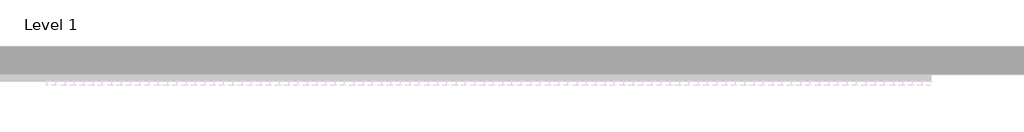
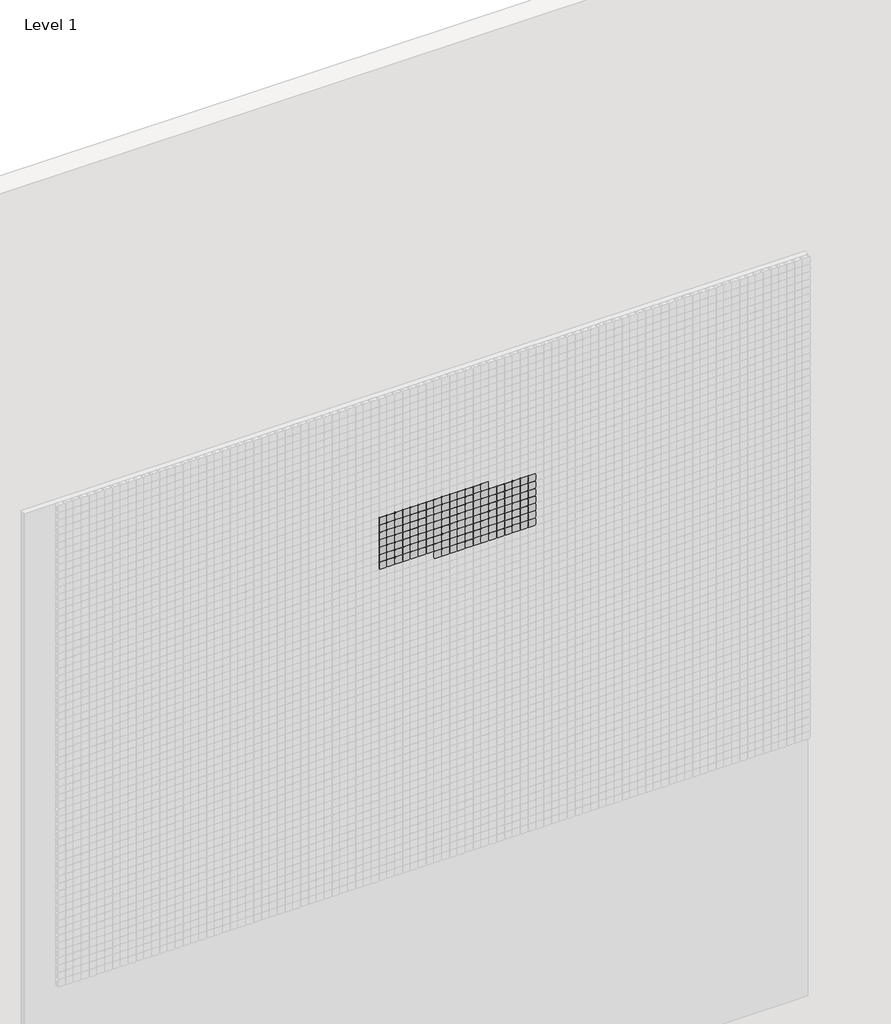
# One storey, part 37 of 71: 147 proxies.
"""IFC4 building model written with IfcOpenShell, lengths in millimetres."""

from ifc_helpers import new_model, si_unit, origin, place, context, project, spatial, transform, mapped, element, save
from components import generic_models_afde289c

model = new_model("IFC4")

# Units and contexts
model_context = context("Model", 3, world=origin())
ifc_project = project(units=[si_unit("LENGTHUNIT", "METRE", prefix="MILLI")], contexts=[model_context])

# Site, building, storey
site = spatial("IfcSite", under=ifc_project)
building = spatial("IfcBuilding", under=site)
storey = spatial("IfcBuildingStorey", under=building, Name="Level 1", Elevation=0.0)

# Proxies
placement = place(None, origin())
generic_models_shape = generic_models_afde289c(model_context)
element("IfcBuildingElementProxy", 1, Name="Pixel_M : Pixel_M", ObjectType="Pixel_M : Pixel_M", at=placement, inside=storey, context=model_context, shape_type="MappedRepresentation", body=[
    mapped(generic_models_shape, transform((7662.4280941, -75.0, 5166.3566215), x_axis=(1.0, 0.0, 0.0), y_axis=(0.0, 0.0, 1.0), z_axis=(0.0, -1.0, 0.0))),
])
element("IfcBuildingElementProxy", 2, Name="Pixel_M : Pixel_M", ObjectType="Pixel_M : Pixel_M", at=placement, inside=storey, context=model_context, shape_type="MappedRepresentation", body=[
    mapped(generic_models_shape, transform((7612.4280941, -75.0, 5166.3566215), x_axis=(1.0, 0.0, 0.0), y_axis=(0.0, 0.0, 1.0), z_axis=(0.0, -1.0, 0.0))),
])
element("IfcBuildingElementProxy", 3, Name="Pixel_M : Pixel_M", ObjectType="Pixel_M : Pixel_M", at=placement, inside=storey, context=model_context, shape_type="MappedRepresentation", body=[
    mapped(generic_models_shape, transform((7562.4280941, -75.0, 5166.3566215), x_axis=(1.0, 0.0, 0.0), y_axis=(0.0, 0.0, 1.0), z_axis=(0.0, -1.0, 0.0))),
])
element("IfcBuildingElementProxy", 4, Name="Pixel_M : Pixel_M", ObjectType="Pixel_M : Pixel_M", at=placement, inside=storey, context=model_context, shape_type="MappedRepresentation", body=[
    mapped(generic_models_shape, transform((7512.4280941, -75.0, 5166.3566215), x_axis=(1.0, 0.0, 0.0), y_axis=(0.0, 0.0, 1.0), z_axis=(0.0, -1.0, 0.0))),
])
element("IfcBuildingElementProxy", 5, Name="Pixel_M : Pixel_M", ObjectType="Pixel_M : Pixel_M", at=placement, inside=storey, context=model_context, shape_type="MappedRepresentation", body=[
    mapped(generic_models_shape, transform((7462.4280941, -75.0, 5166.3566215), x_axis=(1.0, 0.0, 0.0), y_axis=(0.0, 0.0, 1.0), z_axis=(0.0, -1.0, 0.0))),
])
element("IfcBuildingElementProxy", 6, Name="Pixel_M : Pixel_M", ObjectType="Pixel_M : Pixel_M", at=placement, inside=storey, context=model_context, shape_type="MappedRepresentation", body=[
    mapped(generic_models_shape, transform((7412.4280941, -75.0, 5166.3566215), x_axis=(1.0, 0.0, 0.0), y_axis=(0.0, 0.0, 1.0), z_axis=(0.0, -1.0, 0.0))),
])
element("IfcBuildingElementProxy", 7, Name="Pixel_M : Pixel_M", ObjectType="Pixel_M : Pixel_M", at=placement, inside=storey, context=model_context, shape_type="MappedRepresentation", body=[
    mapped(generic_models_shape, transform((7362.4280941, -75.0, 5166.3566215), x_axis=(1.0, 0.0, 0.0), y_axis=(0.0, 0.0, 1.0), z_axis=(0.0, -1.0, 0.0))),
])
element("IfcBuildingElementProxy", 8, Name="Pixel_M : Pixel_M", ObjectType="Pixel_M : Pixel_M", at=placement, inside=storey, context=model_context, shape_type="MappedRepresentation", body=[
    mapped(generic_models_shape, transform((7312.4280941, -75.0, 5166.3566215), x_axis=(1.0, 0.0, 0.0), y_axis=(0.0, 0.0, 1.0), z_axis=(0.0, -1.0, 0.0))),
])
element("IfcBuildingElementProxy", 9, Name="Pixel_M : Pixel_M", ObjectType="Pixel_M : Pixel_M", at=placement, inside=storey, context=model_context, shape_type="MappedRepresentation", body=[
    mapped(generic_models_shape, transform((7262.4280941, -75.0, 5166.3566215), x_axis=(1.0, 0.0, 0.0), y_axis=(0.0, 0.0, 1.0), z_axis=(0.0, -1.0, 0.0))),
])
element("IfcBuildingElementProxy", 10, Name="Pixel_M : Pixel_M", ObjectType="Pixel_M : Pixel_M", at=placement, inside=storey, context=model_context, shape_type="MappedRepresentation", body=[
    mapped(generic_models_shape, transform((7212.4280941, -75.0, 5166.3566215), x_axis=(1.0, 0.0, 0.0), y_axis=(0.0, 0.0, 1.0), z_axis=(0.0, -1.0, 0.0))),
])
element("IfcBuildingElementProxy", 11, Name="Pixel_M : Pixel_M", ObjectType="Pixel_M : Pixel_M", at=placement, inside=storey, context=model_context, shape_type="MappedRepresentation", body=[
    mapped(generic_models_shape, transform((7162.4280941, -75.0, 5166.3566215), x_axis=(1.0, 0.0, 0.0), y_axis=(0.0, 0.0, 1.0), z_axis=(0.0, -1.0, 0.0))),
])
element("IfcBuildingElementProxy", 12, Name="Pixel_M : Pixel_M", ObjectType="Pixel_M : Pixel_M", at=placement, inside=storey, context=model_context, shape_type="MappedRepresentation", body=[
    mapped(generic_models_shape, transform((7112.4280941, -75.0, 5166.3566215), x_axis=(1.0, 0.0, 0.0), y_axis=(0.0, 0.0, 1.0), z_axis=(0.0, -1.0, 0.0))),
])
element("IfcBuildingElementProxy", 13, Name="Pixel_M : Pixel_M", ObjectType="Pixel_M : Pixel_M", at=placement, inside=storey, context=model_context, shape_type="MappedRepresentation", body=[
    mapped(generic_models_shape, transform((7062.4280941, -75.0, 5166.3566215), x_axis=(1.0, 0.0, 0.0), y_axis=(0.0, 0.0, 1.0), z_axis=(0.0, -1.0, 0.0))),
])
element("IfcBuildingElementProxy", 14, Name="Pixel_M : Pixel_M", ObjectType="Pixel_M : Pixel_M", at=placement, inside=storey, context=model_context, shape_type="MappedRepresentation", body=[
    mapped(generic_models_shape, transform((7012.4280941, -75.0, 5166.3566215), x_axis=(1.0, 0.0, 0.0), y_axis=(0.0, 0.0, 1.0), z_axis=(0.0, -1.0, 0.0))),
])
element("IfcBuildingElementProxy", 15, Name="Pixel_M : Pixel_M", ObjectType="Pixel_M : Pixel_M", at=placement, inside=storey, context=model_context, shape_type="MappedRepresentation", body=[
    mapped(generic_models_shape, transform((7962.4280941, -75.0, 5116.3566215), x_axis=(1.0, 0.0, 0.0), y_axis=(0.0, 0.0, 1.0), z_axis=(0.0, -1.0, 0.0))),
])
element("IfcBuildingElementProxy", 16, Name="Pixel_M : Pixel_M", ObjectType="Pixel_M : Pixel_M", at=placement, inside=storey, context=model_context, shape_type="MappedRepresentation", body=[
    mapped(generic_models_shape, transform((7912.4280941, -75.0, 5116.3566215), x_axis=(1.0, 0.0, 0.0), y_axis=(0.0, 0.0, 1.0), z_axis=(0.0, -1.0, 0.0))),
])
element("IfcBuildingElementProxy", 17, Name="Pixel_M : Pixel_M", ObjectType="Pixel_M : Pixel_M", at=placement, inside=storey, context=model_context, shape_type="MappedRepresentation", body=[
    mapped(generic_models_shape, transform((7862.4280941, -75.0, 5116.3566215), x_axis=(1.0, 0.0, 0.0), y_axis=(0.0, 0.0, 1.0), z_axis=(0.0, -1.0, 0.0))),
])
element("IfcBuildingElementProxy", 18, Name="Pixel_M : Pixel_M", ObjectType="Pixel_M : Pixel_M", at=placement, inside=storey, context=model_context, shape_type="MappedRepresentation", body=[
    mapped(generic_models_shape, transform((7812.4280941, -75.0, 5116.3566215), x_axis=(1.0, 0.0, 0.0), y_axis=(0.0, 0.0, 1.0), z_axis=(0.0, -1.0, 0.0))),
])
element("IfcBuildingElementProxy", 19, Name="Pixel_M : Pixel_M", ObjectType="Pixel_M : Pixel_M", at=placement, inside=storey, context=model_context, shape_type="MappedRepresentation", body=[
    mapped(generic_models_shape, transform((7762.4280941, -75.0, 5116.3566215), x_axis=(1.0, 0.0, 0.0), y_axis=(0.0, 0.0, 1.0), z_axis=(0.0, -1.0, 0.0))),
])
element("IfcBuildingElementProxy", 20, Name="Pixel_M : Pixel_M", ObjectType="Pixel_M : Pixel_M", at=placement, inside=storey, context=model_context, shape_type="MappedRepresentation", body=[
    mapped(generic_models_shape, transform((7712.4280941, -75.0, 5116.3566215), x_axis=(1.0, 0.0, 0.0), y_axis=(0.0, 0.0, 1.0), z_axis=(0.0, -1.0, 0.0))),
])
element("IfcBuildingElementProxy", 21, Name="Pixel_M : Pixel_M", ObjectType="Pixel_M : Pixel_M", at=placement, inside=storey, context=model_context, shape_type="MappedRepresentation", body=[
    mapped(generic_models_shape, transform((7662.4280941, -75.0, 5116.3566215), x_axis=(1.0, 0.0, 0.0), y_axis=(0.0, 0.0, 1.0), z_axis=(0.0, -1.0, 0.0))),
])
element("IfcBuildingElementProxy", 22, Name="Pixel_M : Pixel_M", ObjectType="Pixel_M : Pixel_M", at=placement, inside=storey, context=model_context, shape_type="MappedRepresentation", body=[
    mapped(generic_models_shape, transform((7612.4280941, -75.0, 5116.3566215), x_axis=(1.0, 0.0, 0.0), y_axis=(0.0, 0.0, 1.0), z_axis=(0.0, -1.0, 0.0))),
])
element("IfcBuildingElementProxy", 23, Name="Pixel_M : Pixel_M", ObjectType="Pixel_M : Pixel_M", at=placement, inside=storey, context=model_context, shape_type="MappedRepresentation", body=[
    mapped(generic_models_shape, transform((7562.4280941, -75.0, 5116.3566215), x_axis=(1.0, 0.0, 0.0), y_axis=(0.0, 0.0, 1.0), z_axis=(0.0, -1.0, 0.0))),
])
element("IfcBuildingElementProxy", 24, Name="Pixel_M : Pixel_M", ObjectType="Pixel_M : Pixel_M", at=placement, inside=storey, context=model_context, shape_type="MappedRepresentation", body=[
    mapped(generic_models_shape, transform((7512.4280941, -75.0, 5116.3566215), x_axis=(1.0, 0.0, 0.0), y_axis=(0.0, 0.0, 1.0), z_axis=(0.0, -1.0, 0.0))),
])
element("IfcBuildingElementProxy", 25, Name="Pixel_M : Pixel_M", ObjectType="Pixel_M : Pixel_M", at=placement, inside=storey, context=model_context, shape_type="MappedRepresentation", body=[
    mapped(generic_models_shape, transform((7462.4280941, -75.0, 5116.3566215), x_axis=(1.0, 0.0, 0.0), y_axis=(0.0, 0.0, 1.0), z_axis=(0.0, -1.0, 0.0))),
])
element("IfcBuildingElementProxy", 26, Name="Pixel_M : Pixel_M", ObjectType="Pixel_M : Pixel_M", at=placement, inside=storey, context=model_context, shape_type="MappedRepresentation", body=[
    mapped(generic_models_shape, transform((7412.4280941, -75.0, 5116.3566215), x_axis=(1.0, 0.0, 0.0), y_axis=(0.0, 0.0, 1.0), z_axis=(0.0, -1.0, 0.0))),
])
element("IfcBuildingElementProxy", 27, Name="Pixel_M : Pixel_M", ObjectType="Pixel_M : Pixel_M", at=placement, inside=storey, context=model_context, shape_type="MappedRepresentation", body=[
    mapped(generic_models_shape, transform((7362.4280941, -75.0, 5116.3566215), x_axis=(1.0, 0.0, 0.0), y_axis=(0.0, 0.0, 1.0), z_axis=(0.0, -1.0, 0.0))),
])
element("IfcBuildingElementProxy", 28, Name="Pixel_M : Pixel_M", ObjectType="Pixel_M : Pixel_M", at=placement, inside=storey, context=model_context, shape_type="MappedRepresentation", body=[
    mapped(generic_models_shape, transform((7312.4280941, -75.0, 5116.3566215), x_axis=(1.0, 0.0, 0.0), y_axis=(0.0, 0.0, 1.0), z_axis=(0.0, -1.0, 0.0))),
])
element("IfcBuildingElementProxy", 29, Name="Pixel_M : Pixel_M", ObjectType="Pixel_M : Pixel_M", at=placement, inside=storey, context=model_context, shape_type="MappedRepresentation", body=[
    mapped(generic_models_shape, transform((7262.4280941, -75.0, 5116.3566215), x_axis=(1.0, 0.0, 0.0), y_axis=(0.0, 0.0, 1.0), z_axis=(0.0, -1.0, 0.0))),
])
element("IfcBuildingElementProxy", 30, Name="Pixel_M : Pixel_M", ObjectType="Pixel_M : Pixel_M", at=placement, inside=storey, context=model_context, shape_type="MappedRepresentation", body=[
    mapped(generic_models_shape, transform((7212.4280941, -75.0, 5116.3566215), x_axis=(1.0, 0.0, 0.0), y_axis=(0.0, 0.0, 1.0), z_axis=(0.0, -1.0, 0.0))),
])
element("IfcBuildingElementProxy", 31, Name="Pixel_M : Pixel_M", ObjectType="Pixel_M : Pixel_M", at=placement, inside=storey, context=model_context, shape_type="MappedRepresentation", body=[
    mapped(generic_models_shape, transform((7162.4280941, -75.0, 5116.3566215), x_axis=(1.0, 0.0, 0.0), y_axis=(0.0, 0.0, 1.0), z_axis=(0.0, -1.0, 0.0))),
])
element("IfcBuildingElementProxy", 32, Name="Pixel_M : Pixel_M", ObjectType="Pixel_M : Pixel_M", at=placement, inside=storey, context=model_context, shape_type="MappedRepresentation", body=[
    mapped(generic_models_shape, transform((7112.4280941, -75.0, 5116.3566215), x_axis=(1.0, 0.0, 0.0), y_axis=(0.0, 0.0, 1.0), z_axis=(0.0, -1.0, 0.0))),
])
element("IfcBuildingElementProxy", 33, Name="Pixel_M : Pixel_M", ObjectType="Pixel_M : Pixel_M", at=placement, inside=storey, context=model_context, shape_type="MappedRepresentation", body=[
    mapped(generic_models_shape, transform((7062.4280941, -75.0, 5116.3566215), x_axis=(1.0, 0.0, 0.0), y_axis=(0.0, 0.0, 1.0), z_axis=(0.0, -1.0, 0.0))),
])
element("IfcBuildingElementProxy", 34, Name="Pixel_M : Pixel_M", ObjectType="Pixel_M : Pixel_M", at=placement, inside=storey, context=model_context, shape_type="MappedRepresentation", body=[
    mapped(generic_models_shape, transform((7012.4280941, -75.0, 5116.3566215), x_axis=(1.0, 0.0, 0.0), y_axis=(0.0, 0.0, 1.0), z_axis=(0.0, -1.0, 0.0))),
])
element("IfcBuildingElementProxy", 35, Name="Pixel_M : Pixel_M", ObjectType="Pixel_M : Pixel_M", at=placement, inside=storey, context=model_context, shape_type="MappedRepresentation", body=[
    mapped(generic_models_shape, transform((7962.4280941, -75.0, 5066.3566215), x_axis=(1.0, 0.0, 0.0), y_axis=(0.0, 0.0, 1.0), z_axis=(0.0, -1.0, 0.0))),
])
element("IfcBuildingElementProxy", 36, Name="Pixel_M : Pixel_M", ObjectType="Pixel_M : Pixel_M", at=placement, inside=storey, context=model_context, shape_type="MappedRepresentation", body=[
    mapped(generic_models_shape, transform((7912.4280941, -75.0, 5066.3566215), x_axis=(1.0, 0.0, 0.0), y_axis=(0.0, 0.0, 1.0), z_axis=(0.0, -1.0, 0.0))),
])
element("IfcBuildingElementProxy", 37, Name="Pixel_M : Pixel_M", ObjectType="Pixel_M : Pixel_M", at=placement, inside=storey, context=model_context, shape_type="MappedRepresentation", body=[
    mapped(generic_models_shape, transform((7862.4280941, -75.0, 5066.3566215), x_axis=(1.0, 0.0, 0.0), y_axis=(0.0, 0.0, 1.0), z_axis=(0.0, -1.0, 0.0))),
])
element("IfcBuildingElementProxy", 38, Name="Pixel_M : Pixel_M", ObjectType="Pixel_M : Pixel_M", at=placement, inside=storey, context=model_context, shape_type="MappedRepresentation", body=[
    mapped(generic_models_shape, transform((7812.4280941, -75.0, 5066.3566215), x_axis=(1.0, 0.0, 0.0), y_axis=(0.0, 0.0, 1.0), z_axis=(0.0, -1.0, 0.0))),
])
element("IfcBuildingElementProxy", 39, Name="Pixel_M : Pixel_M", ObjectType="Pixel_M : Pixel_M", at=placement, inside=storey, context=model_context, shape_type="MappedRepresentation", body=[
    mapped(generic_models_shape, transform((7762.4280941, -75.0, 5066.3566215), x_axis=(1.0, 0.0, 0.0), y_axis=(0.0, 0.0, 1.0), z_axis=(0.0, -1.0, 0.0))),
])
element("IfcBuildingElementProxy", 40, Name="Pixel_M : Pixel_M", ObjectType="Pixel_M : Pixel_M", at=placement, inside=storey, context=model_context, shape_type="MappedRepresentation", body=[
    mapped(generic_models_shape, transform((7712.4280941, -75.0, 5066.3566215), x_axis=(1.0, 0.0, 0.0), y_axis=(0.0, 0.0, 1.0), z_axis=(0.0, -1.0, 0.0))),
])
element("IfcBuildingElementProxy", 41, Name="Pixel_M : Pixel_M", ObjectType="Pixel_M : Pixel_M", at=placement, inside=storey, context=model_context, shape_type="MappedRepresentation", body=[
    mapped(generic_models_shape, transform((7662.4280941, -75.0, 5066.3566215), x_axis=(1.0, 0.0, 0.0), y_axis=(0.0, 0.0, 1.0), z_axis=(0.0, -1.0, 0.0))),
])
element("IfcBuildingElementProxy", 42, Name="Pixel_M : Pixel_M", ObjectType="Pixel_M : Pixel_M", at=placement, inside=storey, context=model_context, shape_type="MappedRepresentation", body=[
    mapped(generic_models_shape, transform((7612.4280941, -75.0, 5066.3566215), x_axis=(1.0, 0.0, 0.0), y_axis=(0.0, 0.0, 1.0), z_axis=(0.0, -1.0, 0.0))),
])
element("IfcBuildingElementProxy", 43, Name="Pixel_M : Pixel_M", ObjectType="Pixel_M : Pixel_M", at=placement, inside=storey, context=model_context, shape_type="MappedRepresentation", body=[
    mapped(generic_models_shape, transform((7562.4280941, -75.0, 5066.3566215), x_axis=(1.0, 0.0, 0.0), y_axis=(0.0, 0.0, 1.0), z_axis=(0.0, -1.0, 0.0))),
])
element("IfcBuildingElementProxy", 44, Name="Pixel_M : Pixel_M", ObjectType="Pixel_M : Pixel_M", at=placement, inside=storey, context=model_context, shape_type="MappedRepresentation", body=[
    mapped(generic_models_shape, transform((7512.4280941, -75.0, 5066.3566215), x_axis=(1.0, 0.0, 0.0), y_axis=(0.0, 0.0, 1.0), z_axis=(0.0, -1.0, 0.0))),
])
element("IfcBuildingElementProxy", 45, Name="Pixel_M : Pixel_M", ObjectType="Pixel_M : Pixel_M", at=placement, inside=storey, context=model_context, shape_type="MappedRepresentation", body=[
    mapped(generic_models_shape, transform((7462.4280941, -75.0, 5066.3566215), x_axis=(1.0, 0.0, 0.0), y_axis=(0.0, 0.0, 1.0), z_axis=(0.0, -1.0, 0.0))),
])
element("IfcBuildingElementProxy", 46, Name="Pixel_M : Pixel_M", ObjectType="Pixel_M : Pixel_M", at=placement, inside=storey, context=model_context, shape_type="MappedRepresentation", body=[
    mapped(generic_models_shape, transform((7412.4280941, -75.0, 5066.3566215), x_axis=(1.0, 0.0, 0.0), y_axis=(0.0, 0.0, 1.0), z_axis=(0.0, -1.0, 0.0))),
])
element("IfcBuildingElementProxy", 47, Name="Pixel_M : Pixel_M", ObjectType="Pixel_M : Pixel_M", at=placement, inside=storey, context=model_context, shape_type="MappedRepresentation", body=[
    mapped(generic_models_shape, transform((7362.4280941, -75.0, 5066.3566215), x_axis=(1.0, 0.0, 0.0), y_axis=(0.0, 0.0, 1.0), z_axis=(0.0, -1.0, 0.0))),
])
element("IfcBuildingElementProxy", 48, Name="Pixel_M : Pixel_M", ObjectType="Pixel_M : Pixel_M", at=placement, inside=storey, context=model_context, shape_type="MappedRepresentation", body=[
    mapped(generic_models_shape, transform((7312.4280941, -75.0, 5066.3566215), x_axis=(1.0, 0.0, 0.0), y_axis=(0.0, 0.0, 1.0), z_axis=(0.0, -1.0, 0.0))),
])
element("IfcBuildingElementProxy", 49, Name="Pixel_M : Pixel_M", ObjectType="Pixel_M : Pixel_M", at=placement, inside=storey, context=model_context, shape_type="MappedRepresentation", body=[
    mapped(generic_models_shape, transform((7262.4280941, -75.0, 5066.3566215), x_axis=(1.0, 0.0, 0.0), y_axis=(0.0, 0.0, 1.0), z_axis=(0.0, -1.0, 0.0))),
])
element("IfcBuildingElementProxy", 50, Name="Pixel_M : Pixel_M", ObjectType="Pixel_M : Pixel_M", at=placement, inside=storey, context=model_context, shape_type="MappedRepresentation", body=[
    mapped(generic_models_shape, transform((7212.4280941, -75.0, 5066.3566215), x_axis=(1.0, 0.0, 0.0), y_axis=(0.0, 0.0, 1.0), z_axis=(0.0, -1.0, 0.0))),
])
element("IfcBuildingElementProxy", 51, Name="Pixel_M : Pixel_M", ObjectType="Pixel_M : Pixel_M", at=placement, inside=storey, context=model_context, shape_type="MappedRepresentation", body=[
    mapped(generic_models_shape, transform((7162.4280941, -75.0, 5066.3566215), x_axis=(1.0, 0.0, 0.0), y_axis=(0.0, 0.0, 1.0), z_axis=(0.0, -1.0, 0.0))),
])
element("IfcBuildingElementProxy", 52, Name="Pixel_M : Pixel_M", ObjectType="Pixel_M : Pixel_M", at=placement, inside=storey, context=model_context, shape_type="MappedRepresentation", body=[
    mapped(generic_models_shape, transform((7112.4280941, -75.0, 5066.3566215), x_axis=(1.0, 0.0, 0.0), y_axis=(0.0, 0.0, 1.0), z_axis=(0.0, -1.0, 0.0))),
])
element("IfcBuildingElementProxy", 53, Name="Pixel_M : Pixel_M", ObjectType="Pixel_M : Pixel_M", at=placement, inside=storey, context=model_context, shape_type="MappedRepresentation", body=[
    mapped(generic_models_shape, transform((7062.4280941, -75.0, 5066.3566215), x_axis=(1.0, 0.0, 0.0), y_axis=(0.0, 0.0, 1.0), z_axis=(0.0, -1.0, 0.0))),
])
element("IfcBuildingElementProxy", 54, Name="Pixel_M : Pixel_M", ObjectType="Pixel_M : Pixel_M", at=placement, inside=storey, context=model_context, shape_type="MappedRepresentation", body=[
    mapped(generic_models_shape, transform((7012.4280941, -75.0, 5066.3566215), x_axis=(1.0, 0.0, 0.0), y_axis=(0.0, 0.0, 1.0), z_axis=(0.0, -1.0, 0.0))),
])
element("IfcBuildingElementProxy", 55, Name="Pixel_M : Pixel_M", ObjectType="Pixel_M : Pixel_M", at=placement, inside=storey, context=model_context, shape_type="MappedRepresentation", body=[
    mapped(generic_models_shape, transform((7962.4280941, -75.0, 5016.3566215), x_axis=(1.0, 0.0, 0.0), y_axis=(0.0, 0.0, 1.0), z_axis=(0.0, -1.0, 0.0))),
])
element("IfcBuildingElementProxy", 56, Name="Pixel_M : Pixel_M", ObjectType="Pixel_M : Pixel_M", at=placement, inside=storey, context=model_context, shape_type="MappedRepresentation", body=[
    mapped(generic_models_shape, transform((7912.4280941, -75.0, 5016.3566215), x_axis=(1.0, 0.0, 0.0), y_axis=(0.0, 0.0, 1.0), z_axis=(0.0, -1.0, 0.0))),
])
element("IfcBuildingElementProxy", 57, Name="Pixel_M : Pixel_M", ObjectType="Pixel_M : Pixel_M", at=placement, inside=storey, context=model_context, shape_type="MappedRepresentation", body=[
    mapped(generic_models_shape, transform((7862.4280941, -75.0, 5016.3566215), x_axis=(1.0, 0.0, 0.0), y_axis=(0.0, 0.0, 1.0), z_axis=(0.0, -1.0, 0.0))),
])
element("IfcBuildingElementProxy", 58, Name="Pixel_M : Pixel_M", ObjectType="Pixel_M : Pixel_M", at=placement, inside=storey, context=model_context, shape_type="MappedRepresentation", body=[
    mapped(generic_models_shape, transform((7812.4280941, -75.0, 5016.3566215), x_axis=(1.0, 0.0, 0.0), y_axis=(0.0, 0.0, 1.0), z_axis=(0.0, -1.0, 0.0))),
])
element("IfcBuildingElementProxy", 59, Name="Pixel_M : Pixel_M", ObjectType="Pixel_M : Pixel_M", at=placement, inside=storey, context=model_context, shape_type="MappedRepresentation", body=[
    mapped(generic_models_shape, transform((7762.4280941, -75.0, 5016.3566215), x_axis=(1.0, 0.0, 0.0), y_axis=(0.0, 0.0, 1.0), z_axis=(0.0, -1.0, 0.0))),
])
element("IfcBuildingElementProxy", 60, Name="Pixel_M : Pixel_M", ObjectType="Pixel_M : Pixel_M", at=placement, inside=storey, context=model_context, shape_type="MappedRepresentation", body=[
    mapped(generic_models_shape, transform((7712.4280941, -75.0, 5016.3566215), x_axis=(1.0, 0.0, 0.0), y_axis=(0.0, 0.0, 1.0), z_axis=(0.0, -1.0, 0.0))),
])
element("IfcBuildingElementProxy", 61, Name="Pixel_M : Pixel_M", ObjectType="Pixel_M : Pixel_M", at=placement, inside=storey, context=model_context, shape_type="MappedRepresentation", body=[
    mapped(generic_models_shape, transform((7662.4280941, -75.0, 5016.3566215), x_axis=(1.0, 0.0, 0.0), y_axis=(0.0, 0.0, 1.0), z_axis=(0.0, -1.0, 0.0))),
])
element("IfcBuildingElementProxy", 62, Name="Pixel_M : Pixel_M", ObjectType="Pixel_M : Pixel_M", at=placement, inside=storey, context=model_context, shape_type="MappedRepresentation", body=[
    mapped(generic_models_shape, transform((7612.4280941, -75.0, 5016.3566215), x_axis=(1.0, 0.0, 0.0), y_axis=(0.0, 0.0, 1.0), z_axis=(0.0, -1.0, 0.0))),
])
element("IfcBuildingElementProxy", 63, Name="Pixel_M : Pixel_M", ObjectType="Pixel_M : Pixel_M", at=placement, inside=storey, context=model_context, shape_type="MappedRepresentation", body=[
    mapped(generic_models_shape, transform((7562.4280941, -75.0, 5016.3566215), x_axis=(1.0, 0.0, 0.0), y_axis=(0.0, 0.0, 1.0), z_axis=(0.0, -1.0, 0.0))),
])
element("IfcBuildingElementProxy", 64, Name="Pixel_M : Pixel_M", ObjectType="Pixel_M : Pixel_M", at=placement, inside=storey, context=model_context, shape_type="MappedRepresentation", body=[
    mapped(generic_models_shape, transform((7512.4280941, -75.0, 5016.3566215), x_axis=(1.0, 0.0, 0.0), y_axis=(0.0, 0.0, 1.0), z_axis=(0.0, -1.0, 0.0))),
])
element("IfcBuildingElementProxy", 65, Name="Pixel_M : Pixel_M", ObjectType="Pixel_M : Pixel_M", at=placement, inside=storey, context=model_context, shape_type="MappedRepresentation", body=[
    mapped(generic_models_shape, transform((7462.4280941, -75.0, 5016.3566215), x_axis=(1.0, 0.0, 0.0), y_axis=(0.0, 0.0, 1.0), z_axis=(0.0, -1.0, 0.0))),
])
element("IfcBuildingElementProxy", 66, Name="Pixel_M : Pixel_M", ObjectType="Pixel_M : Pixel_M", at=placement, inside=storey, context=model_context, shape_type="MappedRepresentation", body=[
    mapped(generic_models_shape, transform((7412.4280941, -75.0, 5016.3566215), x_axis=(1.0, 0.0, 0.0), y_axis=(0.0, 0.0, 1.0), z_axis=(0.0, -1.0, 0.0))),
])
element("IfcBuildingElementProxy", 67, Name="Pixel_M : Pixel_M", ObjectType="Pixel_M : Pixel_M", at=placement, inside=storey, context=model_context, shape_type="MappedRepresentation", body=[
    mapped(generic_models_shape, transform((7362.4280941, -75.0, 5016.3566215), x_axis=(1.0, 0.0, 0.0), y_axis=(0.0, 0.0, 1.0), z_axis=(0.0, -1.0, 0.0))),
])
element("IfcBuildingElementProxy", 68, Name="Pixel_M : Pixel_M", ObjectType="Pixel_M : Pixel_M", at=placement, inside=storey, context=model_context, shape_type="MappedRepresentation", body=[
    mapped(generic_models_shape, transform((7312.4280941, -75.0, 5016.3566215), x_axis=(1.0, 0.0, 0.0), y_axis=(0.0, 0.0, 1.0), z_axis=(0.0, -1.0, 0.0))),
])
element("IfcBuildingElementProxy", 69, Name="Pixel_M : Pixel_M", ObjectType="Pixel_M : Pixel_M", at=placement, inside=storey, context=model_context, shape_type="MappedRepresentation", body=[
    mapped(generic_models_shape, transform((7262.4280941, -75.0, 5016.3566215), x_axis=(1.0, 0.0, 0.0), y_axis=(0.0, 0.0, 1.0), z_axis=(0.0, -1.0, 0.0))),
])
element("IfcBuildingElementProxy", 70, Name="Pixel_M : Pixel_M", ObjectType="Pixel_M : Pixel_M", at=placement, inside=storey, context=model_context, shape_type="MappedRepresentation", body=[
    mapped(generic_models_shape, transform((7212.4280941, -75.0, 5016.3566215), x_axis=(1.0, 0.0, 0.0), y_axis=(0.0, 0.0, 1.0), z_axis=(0.0, -1.0, 0.0))),
])
element("IfcBuildingElementProxy", 71, Name="Pixel_M : Pixel_M", ObjectType="Pixel_M : Pixel_M", at=placement, inside=storey, context=model_context, shape_type="MappedRepresentation", body=[
    mapped(generic_models_shape, transform((7162.4280941, -75.0, 5016.3566215), x_axis=(1.0, 0.0, 0.0), y_axis=(0.0, 0.0, 1.0), z_axis=(0.0, -1.0, 0.0))),
])
element("IfcBuildingElementProxy", 72, Name="Pixel_M : Pixel_M", ObjectType="Pixel_M : Pixel_M", at=placement, inside=storey, context=model_context, shape_type="MappedRepresentation", body=[
    mapped(generic_models_shape, transform((7112.4280941, -75.0, 5016.3566215), x_axis=(1.0, 0.0, 0.0), y_axis=(0.0, 0.0, 1.0), z_axis=(0.0, -1.0, 0.0))),
])
element("IfcBuildingElementProxy", 73, Name="Pixel_M : Pixel_M", ObjectType="Pixel_M : Pixel_M", at=placement, inside=storey, context=model_context, shape_type="MappedRepresentation", body=[
    mapped(generic_models_shape, transform((7062.4280941, -75.0, 5016.3566215), x_axis=(1.0, 0.0, 0.0), y_axis=(0.0, 0.0, 1.0), z_axis=(0.0, -1.0, 0.0))),
])
element("IfcBuildingElementProxy", 74, Name="Pixel_M : Pixel_M", ObjectType="Pixel_M : Pixel_M", at=placement, inside=storey, context=model_context, shape_type="MappedRepresentation", body=[
    mapped(generic_models_shape, transform((7012.4280941, -75.0, 5016.3566215), x_axis=(1.0, 0.0, 0.0), y_axis=(0.0, 0.0, 1.0), z_axis=(0.0, -1.0, 0.0))),
])
element("IfcBuildingElementProxy", 75, Name="Pixel_M : Pixel_M", ObjectType="Pixel_M : Pixel_M", at=placement, inside=storey, context=model_context, shape_type="MappedRepresentation", body=[
    mapped(generic_models_shape, transform((7962.4280941, -75.0, 4966.3566215), x_axis=(1.0, 0.0, 0.0), y_axis=(0.0, 0.0, 1.0), z_axis=(0.0, -1.0, 0.0))),
])
element("IfcBuildingElementProxy", 76, Name="Pixel_M : Pixel_M", ObjectType="Pixel_M : Pixel_M", at=placement, inside=storey, context=model_context, shape_type="MappedRepresentation", body=[
    mapped(generic_models_shape, transform((7912.4280941, -75.0, 4966.3566215), x_axis=(1.0, 0.0, 0.0), y_axis=(0.0, 0.0, 1.0), z_axis=(0.0, -1.0, 0.0))),
])
element("IfcBuildingElementProxy", 77, Name="Pixel_M : Pixel_M", ObjectType="Pixel_M : Pixel_M", at=placement, inside=storey, context=model_context, shape_type="MappedRepresentation", body=[
    mapped(generic_models_shape, transform((7862.4280941, -75.0, 4966.3566215), x_axis=(1.0, 0.0, 0.0), y_axis=(0.0, 0.0, 1.0), z_axis=(0.0, -1.0, 0.0))),
])
element("IfcBuildingElementProxy", 78, Name="Pixel_M : Pixel_M", ObjectType="Pixel_M : Pixel_M", at=placement, inside=storey, context=model_context, shape_type="MappedRepresentation", body=[
    mapped(generic_models_shape, transform((7812.4280941, -75.0, 4966.3566215), x_axis=(1.0, 0.0, 0.0), y_axis=(0.0, 0.0, 1.0), z_axis=(0.0, -1.0, 0.0))),
])
element("IfcBuildingElementProxy", 79, Name="Pixel_M : Pixel_M", ObjectType="Pixel_M : Pixel_M", at=placement, inside=storey, context=model_context, shape_type="MappedRepresentation", body=[
    mapped(generic_models_shape, transform((7762.4280941, -75.0, 4966.3566215), x_axis=(1.0, 0.0, 0.0), y_axis=(0.0, 0.0, 1.0), z_axis=(0.0, -1.0, 0.0))),
])
element("IfcBuildingElementProxy", 80, Name="Pixel_M : Pixel_M", ObjectType="Pixel_M : Pixel_M", at=placement, inside=storey, context=model_context, shape_type="MappedRepresentation", body=[
    mapped(generic_models_shape, transform((7712.4280941, -75.0, 4966.3566215), x_axis=(1.0, 0.0, 0.0), y_axis=(0.0, 0.0, 1.0), z_axis=(0.0, -1.0, 0.0))),
])
element("IfcBuildingElementProxy", 81, Name="Pixel_M : Pixel_M", ObjectType="Pixel_M : Pixel_M", at=placement, inside=storey, context=model_context, shape_type="MappedRepresentation", body=[
    mapped(generic_models_shape, transform((7662.4280941, -75.0, 4966.3566215), x_axis=(1.0, 0.0, 0.0), y_axis=(0.0, 0.0, 1.0), z_axis=(0.0, -1.0, 0.0))),
])
element("IfcBuildingElementProxy", 82, Name="Pixel_M : Pixel_M", ObjectType="Pixel_M : Pixel_M", at=placement, inside=storey, context=model_context, shape_type="MappedRepresentation", body=[
    mapped(generic_models_shape, transform((7612.4280941, -75.0, 4966.3566215), x_axis=(1.0, 0.0, 0.0), y_axis=(0.0, 0.0, 1.0), z_axis=(0.0, -1.0, 0.0))),
])
element("IfcBuildingElementProxy", 83, Name="Pixel_M : Pixel_M", ObjectType="Pixel_M : Pixel_M", at=placement, inside=storey, context=model_context, shape_type="MappedRepresentation", body=[
    mapped(generic_models_shape, transform((7562.4280941, -75.0, 4966.3566215), x_axis=(1.0, 0.0, 0.0), y_axis=(0.0, 0.0, 1.0), z_axis=(0.0, -1.0, 0.0))),
])
element("IfcBuildingElementProxy", 84, Name="Pixel_M : Pixel_M", ObjectType="Pixel_M : Pixel_M", at=placement, inside=storey, context=model_context, shape_type="MappedRepresentation", body=[
    mapped(generic_models_shape, transform((7512.4280941, -75.0, 4966.3566215), x_axis=(1.0, 0.0, 0.0), y_axis=(0.0, 0.0, 1.0), z_axis=(0.0, -1.0, 0.0))),
])
element("IfcBuildingElementProxy", 85, Name="Pixel_M : Pixel_M", ObjectType="Pixel_M : Pixel_M", at=placement, inside=storey, context=model_context, shape_type="MappedRepresentation", body=[
    mapped(generic_models_shape, transform((7462.4280941, -75.0, 4966.3566215), x_axis=(1.0, 0.0, 0.0), y_axis=(0.0, 0.0, 1.0), z_axis=(0.0, -1.0, 0.0))),
])
element("IfcBuildingElementProxy", 86, Name="Pixel_M : Pixel_M", ObjectType="Pixel_M : Pixel_M", at=placement, inside=storey, context=model_context, shape_type="MappedRepresentation", body=[
    mapped(generic_models_shape, transform((7412.4280941, -75.0, 4966.3566215), x_axis=(1.0, 0.0, 0.0), y_axis=(0.0, 0.0, 1.0), z_axis=(0.0, -1.0, 0.0))),
])
element("IfcBuildingElementProxy", 87, Name="Pixel_M : Pixel_M", ObjectType="Pixel_M : Pixel_M", at=placement, inside=storey, context=model_context, shape_type="MappedRepresentation", body=[
    mapped(generic_models_shape, transform((7362.4280941, -75.0, 4966.3566215), x_axis=(1.0, 0.0, 0.0), y_axis=(0.0, 0.0, 1.0), z_axis=(0.0, -1.0, 0.0))),
])
element("IfcBuildingElementProxy", 88, Name="Pixel_M : Pixel_M", ObjectType="Pixel_M : Pixel_M", at=placement, inside=storey, context=model_context, shape_type="MappedRepresentation", body=[
    mapped(generic_models_shape, transform((7312.4280941, -75.0, 4966.3566215), x_axis=(1.0, 0.0, 0.0), y_axis=(0.0, 0.0, 1.0), z_axis=(0.0, -1.0, 0.0))),
])
element("IfcBuildingElementProxy", 89, Name="Pixel_M : Pixel_M", ObjectType="Pixel_M : Pixel_M", at=placement, inside=storey, context=model_context, shape_type="MappedRepresentation", body=[
    mapped(generic_models_shape, transform((7262.4280941, -75.0, 4966.3566215), x_axis=(1.0, 0.0, 0.0), y_axis=(0.0, 0.0, 1.0), z_axis=(0.0, -1.0, 0.0))),
])
element("IfcBuildingElementProxy", 90, Name="Pixel_M : Pixel_M", ObjectType="Pixel_M : Pixel_M", at=placement, inside=storey, context=model_context, shape_type="MappedRepresentation", body=[
    mapped(generic_models_shape, transform((7212.4280941, -75.0, 4966.3566215), x_axis=(1.0, 0.0, 0.0), y_axis=(0.0, 0.0, 1.0), z_axis=(0.0, -1.0, 0.0))),
])
element("IfcBuildingElementProxy", 91, Name="Pixel_M : Pixel_M", ObjectType="Pixel_M : Pixel_M", at=placement, inside=storey, context=model_context, shape_type="MappedRepresentation", body=[
    mapped(generic_models_shape, transform((7162.4280941, -75.0, 4966.3566215), x_axis=(1.0, 0.0, 0.0), y_axis=(0.0, 0.0, 1.0), z_axis=(0.0, -1.0, 0.0))),
])
element("IfcBuildingElementProxy", 92, Name="Pixel_M : Pixel_M", ObjectType="Pixel_M : Pixel_M", at=placement, inside=storey, context=model_context, shape_type="MappedRepresentation", body=[
    mapped(generic_models_shape, transform((7112.4280941, -75.0, 4966.3566215), x_axis=(1.0, 0.0, 0.0), y_axis=(0.0, 0.0, 1.0), z_axis=(0.0, -1.0, 0.0))),
])
element("IfcBuildingElementProxy", 93, Name="Pixel_M : Pixel_M", ObjectType="Pixel_M : Pixel_M", at=placement, inside=storey, context=model_context, shape_type="MappedRepresentation", body=[
    mapped(generic_models_shape, transform((7062.4280941, -75.0, 4966.3566215), x_axis=(1.0, 0.0, 0.0), y_axis=(0.0, 0.0, 1.0), z_axis=(0.0, -1.0, 0.0))),
])
element("IfcBuildingElementProxy", 94, Name="Pixel_M : Pixel_M", ObjectType="Pixel_M : Pixel_M", at=placement, inside=storey, context=model_context, shape_type="MappedRepresentation", body=[
    mapped(generic_models_shape, transform((7012.4280941, -75.0, 4966.3566215), x_axis=(1.0, 0.0, 0.0), y_axis=(0.0, 0.0, 1.0), z_axis=(0.0, -1.0, 0.0))),
])
element("IfcBuildingElementProxy", 95, Name="Pixel_M : Pixel_M", ObjectType="Pixel_M : Pixel_M", at=placement, inside=storey, context=model_context, shape_type="MappedRepresentation", body=[
    mapped(generic_models_shape, transform((7962.4280941, -75.0, 4916.3566215), x_axis=(1.0, 0.0, 0.0), y_axis=(0.0, 0.0, 1.0), z_axis=(0.0, -1.0, 0.0))),
])
element("IfcBuildingElementProxy", 96, Name="Pixel_M : Pixel_M", ObjectType="Pixel_M : Pixel_M", at=placement, inside=storey, context=model_context, shape_type="MappedRepresentation", body=[
    mapped(generic_models_shape, transform((7912.4280941, -75.0, 4916.3566215), x_axis=(1.0, 0.0, 0.0), y_axis=(0.0, 0.0, 1.0), z_axis=(0.0, -1.0, 0.0))),
])
element("IfcBuildingElementProxy", 97, Name="Pixel_M : Pixel_M", ObjectType="Pixel_M : Pixel_M", at=placement, inside=storey, context=model_context, shape_type="MappedRepresentation", body=[
    mapped(generic_models_shape, transform((7862.4280941, -75.0, 4916.3566215), x_axis=(1.0, 0.0, 0.0), y_axis=(0.0, 0.0, 1.0), z_axis=(0.0, -1.0, 0.0))),
])
element("IfcBuildingElementProxy", 98, Name="Pixel_M : Pixel_M", ObjectType="Pixel_M : Pixel_M", at=placement, inside=storey, context=model_context, shape_type="MappedRepresentation", body=[
    mapped(generic_models_shape, transform((7812.4280941, -75.0, 4916.3566215), x_axis=(1.0, 0.0, 0.0), y_axis=(0.0, 0.0, 1.0), z_axis=(0.0, -1.0, 0.0))),
])
element("IfcBuildingElementProxy", 99, Name="Pixel_M : Pixel_M", ObjectType="Pixel_M : Pixel_M", at=placement, inside=storey, context=model_context, shape_type="MappedRepresentation", body=[
    mapped(generic_models_shape, transform((7762.4280941, -75.0, 4916.3566215), x_axis=(1.0, 0.0, 0.0), y_axis=(0.0, 0.0, 1.0), z_axis=(0.0, -1.0, 0.0))),
])
element("IfcBuildingElementProxy", 100, Name="Pixel_M : Pixel_M", ObjectType="Pixel_M : Pixel_M", at=placement, inside=storey, context=model_context, shape_type="MappedRepresentation", body=[
    mapped(generic_models_shape, transform((7712.4280941, -75.0, 4916.3566215), x_axis=(1.0, 0.0, 0.0), y_axis=(0.0, 0.0, 1.0), z_axis=(0.0, -1.0, 0.0))),
])
element("IfcBuildingElementProxy", 101, Name="Pixel_M : Pixel_M", ObjectType="Pixel_M : Pixel_M", at=placement, inside=storey, context=model_context, shape_type="MappedRepresentation", body=[
    mapped(generic_models_shape, transform((7662.4280941, -75.0, 4916.3566215), x_axis=(1.0, 0.0, 0.0), y_axis=(0.0, 0.0, 1.0), z_axis=(0.0, -1.0, 0.0))),
])
element("IfcBuildingElementProxy", 102, Name="Pixel_M : Pixel_M", ObjectType="Pixel_M : Pixel_M", at=placement, inside=storey, context=model_context, shape_type="MappedRepresentation", body=[
    mapped(generic_models_shape, transform((7612.4280941, -75.0, 4916.3566215), x_axis=(1.0, 0.0, 0.0), y_axis=(0.0, 0.0, 1.0), z_axis=(0.0, -1.0, 0.0))),
])
element("IfcBuildingElementProxy", 103, Name="Pixel_M : Pixel_M", ObjectType="Pixel_M : Pixel_M", at=placement, inside=storey, context=model_context, shape_type="MappedRepresentation", body=[
    mapped(generic_models_shape, transform((7562.4280941, -75.0, 4916.3566215), x_axis=(1.0, 0.0, 0.0), y_axis=(0.0, 0.0, 1.0), z_axis=(0.0, -1.0, 0.0))),
])
element("IfcBuildingElementProxy", 104, Name="Pixel_M : Pixel_M", ObjectType="Pixel_M : Pixel_M", at=placement, inside=storey, context=model_context, shape_type="MappedRepresentation", body=[
    mapped(generic_models_shape, transform((7512.4280941, -75.0, 4916.3566215), x_axis=(1.0, 0.0, 0.0), y_axis=(0.0, 0.0, 1.0), z_axis=(0.0, -1.0, 0.0))),
])
element("IfcBuildingElementProxy", 105, Name="Pixel_M : Pixel_M", ObjectType="Pixel_M : Pixel_M", at=placement, inside=storey, context=model_context, shape_type="MappedRepresentation", body=[
    mapped(generic_models_shape, transform((7462.4280941, -75.0, 4916.3566215), x_axis=(1.0, 0.0, 0.0), y_axis=(0.0, 0.0, 1.0), z_axis=(0.0, -1.0, 0.0))),
])
element("IfcBuildingElementProxy", 106, Name="Pixel_M : Pixel_M", ObjectType="Pixel_M : Pixel_M", at=placement, inside=storey, context=model_context, shape_type="MappedRepresentation", body=[
    mapped(generic_models_shape, transform((7412.4280941, -75.0, 4916.3566215), x_axis=(1.0, 0.0, 0.0), y_axis=(0.0, 0.0, 1.0), z_axis=(0.0, -1.0, 0.0))),
])
element("IfcBuildingElementProxy", 107, Name="Pixel_M : Pixel_M", ObjectType="Pixel_M : Pixel_M", at=placement, inside=storey, context=model_context, shape_type="MappedRepresentation", body=[
    mapped(generic_models_shape, transform((7362.4280941, -75.0, 4916.3566215), x_axis=(1.0, 0.0, 0.0), y_axis=(0.0, 0.0, 1.0), z_axis=(0.0, -1.0, 0.0))),
])
element("IfcBuildingElementProxy", 108, Name="Pixel_M : Pixel_M", ObjectType="Pixel_M : Pixel_M", at=placement, inside=storey, context=model_context, shape_type="MappedRepresentation", body=[
    mapped(generic_models_shape, transform((7312.4280941, -75.0, 4916.3566215), x_axis=(1.0, 0.0, 0.0), y_axis=(0.0, 0.0, 1.0), z_axis=(0.0, -1.0, 0.0))),
])
element("IfcBuildingElementProxy", 109, Name="Pixel_M : Pixel_M", ObjectType="Pixel_M : Pixel_M", at=placement, inside=storey, context=model_context, shape_type="MappedRepresentation", body=[
    mapped(generic_models_shape, transform((7262.4280941, -75.0, 4916.3566215), x_axis=(1.0, 0.0, 0.0), y_axis=(0.0, 0.0, 1.0), z_axis=(0.0, -1.0, 0.0))),
])
element("IfcBuildingElementProxy", 110, Name="Pixel_M : Pixel_M", ObjectType="Pixel_M : Pixel_M", at=placement, inside=storey, context=model_context, shape_type="MappedRepresentation", body=[
    mapped(generic_models_shape, transform((7212.4280941, -75.0, 4916.3566215), x_axis=(1.0, 0.0, 0.0), y_axis=(0.0, 0.0, 1.0), z_axis=(0.0, -1.0, 0.0))),
])
element("IfcBuildingElementProxy", 111, Name="Pixel_M : Pixel_M", ObjectType="Pixel_M : Pixel_M", at=placement, inside=storey, context=model_context, shape_type="MappedRepresentation", body=[
    mapped(generic_models_shape, transform((7162.4280941, -75.0, 4916.3566215), x_axis=(1.0, 0.0, 0.0), y_axis=(0.0, 0.0, 1.0), z_axis=(0.0, -1.0, 0.0))),
])
element("IfcBuildingElementProxy", 112, Name="Pixel_M : Pixel_M", ObjectType="Pixel_M : Pixel_M", at=placement, inside=storey, context=model_context, shape_type="MappedRepresentation", body=[
    mapped(generic_models_shape, transform((7112.4280941, -75.0, 4916.3566215), x_axis=(1.0, 0.0, 0.0), y_axis=(0.0, 0.0, 1.0), z_axis=(0.0, -1.0, 0.0))),
])
element("IfcBuildingElementProxy", 113, Name="Pixel_M : Pixel_M", ObjectType="Pixel_M : Pixel_M", at=placement, inside=storey, context=model_context, shape_type="MappedRepresentation", body=[
    mapped(generic_models_shape, transform((7062.4280941, -75.0, 4916.3566215), x_axis=(1.0, 0.0, 0.0), y_axis=(0.0, 0.0, 1.0), z_axis=(0.0, -1.0, 0.0))),
])
element("IfcBuildingElementProxy", 114, Name="Pixel_M : Pixel_M", ObjectType="Pixel_M : Pixel_M", at=placement, inside=storey, context=model_context, shape_type="MappedRepresentation", body=[
    mapped(generic_models_shape, transform((7012.4280941, -75.0, 4916.3566215), x_axis=(1.0, 0.0, 0.0), y_axis=(0.0, 0.0, 1.0), z_axis=(0.0, -1.0, 0.0))),
])
element("IfcBuildingElementProxy", 115, Name="Pixel_M : Pixel_M", ObjectType="Pixel_M : Pixel_M", at=placement, inside=storey, context=model_context, shape_type="MappedRepresentation", body=[
    mapped(generic_models_shape, transform((7962.4280941, -75.0, 4866.3566215), x_axis=(1.0, 0.0, 0.0), y_axis=(0.0, 0.0, 1.0), z_axis=(0.0, -1.0, 0.0))),
])
element("IfcBuildingElementProxy", 116, Name="Pixel_M : Pixel_M", ObjectType="Pixel_M : Pixel_M", at=placement, inside=storey, context=model_context, shape_type="MappedRepresentation", body=[
    mapped(generic_models_shape, transform((7912.4280941, -75.0, 4866.3566215), x_axis=(1.0, 0.0, 0.0), y_axis=(0.0, 0.0, 1.0), z_axis=(0.0, -1.0, 0.0))),
])
element("IfcBuildingElementProxy", 117, Name="Pixel_M : Pixel_M", ObjectType="Pixel_M : Pixel_M", at=placement, inside=storey, context=model_context, shape_type="MappedRepresentation", body=[
    mapped(generic_models_shape, transform((7862.4280941, -75.0, 4866.3566215), x_axis=(1.0, 0.0, 0.0), y_axis=(0.0, 0.0, 1.0), z_axis=(0.0, -1.0, 0.0))),
])
element("IfcBuildingElementProxy", 118, Name="Pixel_M : Pixel_M", ObjectType="Pixel_M : Pixel_M", at=placement, inside=storey, context=model_context, shape_type="MappedRepresentation", body=[
    mapped(generic_models_shape, transform((7812.4280941, -75.0, 4866.3566215), x_axis=(1.0, 0.0, 0.0), y_axis=(0.0, 0.0, 1.0), z_axis=(0.0, -1.0, 0.0))),
])
element("IfcBuildingElementProxy", 119, Name="Pixel_M : Pixel_M", ObjectType="Pixel_M : Pixel_M", at=placement, inside=storey, context=model_context, shape_type="MappedRepresentation", body=[
    mapped(generic_models_shape, transform((7762.4280941, -75.0, 4866.3566215), x_axis=(1.0, 0.0, 0.0), y_axis=(0.0, 0.0, 1.0), z_axis=(0.0, -1.0, 0.0))),
])
element("IfcBuildingElementProxy", 120, Name="Pixel_M : Pixel_M", ObjectType="Pixel_M : Pixel_M", at=placement, inside=storey, context=model_context, shape_type="MappedRepresentation", body=[
    mapped(generic_models_shape, transform((7712.4280941, -75.0, 4866.3566215), x_axis=(1.0, 0.0, 0.0), y_axis=(0.0, 0.0, 1.0), z_axis=(0.0, -1.0, 0.0))),
])
element("IfcBuildingElementProxy", 121, Name="Pixel_M : Pixel_M", ObjectType="Pixel_M : Pixel_M", at=placement, inside=storey, context=model_context, shape_type="MappedRepresentation", body=[
    mapped(generic_models_shape, transform((7662.4280941, -75.0, 4866.3566215), x_axis=(1.0, 0.0, 0.0), y_axis=(0.0, 0.0, 1.0), z_axis=(0.0, -1.0, 0.0))),
])
element("IfcBuildingElementProxy", 122, Name="Pixel_M : Pixel_M", ObjectType="Pixel_M : Pixel_M", at=placement, inside=storey, context=model_context, shape_type="MappedRepresentation", body=[
    mapped(generic_models_shape, transform((7612.4280941, -75.0, 4866.3566215), x_axis=(1.0, 0.0, 0.0), y_axis=(0.0, 0.0, 1.0), z_axis=(0.0, -1.0, 0.0))),
])
element("IfcBuildingElementProxy", 123, Name="Pixel_M : Pixel_M", ObjectType="Pixel_M : Pixel_M", at=placement, inside=storey, context=model_context, shape_type="MappedRepresentation", body=[
    mapped(generic_models_shape, transform((7562.4280941, -75.0, 4866.3566215), x_axis=(1.0, 0.0, 0.0), y_axis=(0.0, 0.0, 1.0), z_axis=(0.0, -1.0, 0.0))),
])
element("IfcBuildingElementProxy", 124, Name="Pixel_M : Pixel_M", ObjectType="Pixel_M : Pixel_M", at=placement, inside=storey, context=model_context, shape_type="MappedRepresentation", body=[
    mapped(generic_models_shape, transform((7512.4280941, -75.0, 4866.3566215), x_axis=(1.0, 0.0, 0.0), y_axis=(0.0, 0.0, 1.0), z_axis=(0.0, -1.0, 0.0))),
])
element("IfcBuildingElementProxy", 125, Name="Pixel_M : Pixel_M", ObjectType="Pixel_M : Pixel_M", at=placement, inside=storey, context=model_context, shape_type="MappedRepresentation", body=[
    mapped(generic_models_shape, transform((7462.4280941, -75.0, 4866.3566215), x_axis=(1.0, 0.0, 0.0), y_axis=(0.0, 0.0, 1.0), z_axis=(0.0, -1.0, 0.0))),
])
element("IfcBuildingElementProxy", 126, Name="Pixel_M : Pixel_M", ObjectType="Pixel_M : Pixel_M", at=placement, inside=storey, context=model_context, shape_type="MappedRepresentation", body=[
    mapped(generic_models_shape, transform((7412.4280941, -75.0, 4866.3566215), x_axis=(1.0, 0.0, 0.0), y_axis=(0.0, 0.0, 1.0), z_axis=(0.0, -1.0, 0.0))),
])
element("IfcBuildingElementProxy", 127, Name="Pixel_M : Pixel_M", ObjectType="Pixel_M : Pixel_M", at=placement, inside=storey, context=model_context, shape_type="MappedRepresentation", body=[
    mapped(generic_models_shape, transform((7362.4280941, -75.0, 4866.3566215), x_axis=(1.0, 0.0, 0.0), y_axis=(0.0, 0.0, 1.0), z_axis=(0.0, -1.0, 0.0))),
])
element("IfcBuildingElementProxy", 128, Name="Pixel_M : Pixel_M", ObjectType="Pixel_M : Pixel_M", at=placement, inside=storey, context=model_context, shape_type="MappedRepresentation", body=[
    mapped(generic_models_shape, transform((7312.4280941, -75.0, 4866.3566215), x_axis=(1.0, 0.0, 0.0), y_axis=(0.0, 0.0, 1.0), z_axis=(0.0, -1.0, 0.0))),
])
element("IfcBuildingElementProxy", 129, Name="Pixel_M : Pixel_M", ObjectType="Pixel_M : Pixel_M", at=placement, inside=storey, context=model_context, shape_type="MappedRepresentation", body=[
    mapped(generic_models_shape, transform((7262.4280941, -75.0, 4866.3566215), x_axis=(1.0, 0.0, 0.0), y_axis=(0.0, 0.0, 1.0), z_axis=(0.0, -1.0, 0.0))),
])
element("IfcBuildingElementProxy", 130, Name="Pixel_M : Pixel_M", ObjectType="Pixel_M : Pixel_M", at=placement, inside=storey, context=model_context, shape_type="MappedRepresentation", body=[
    mapped(generic_models_shape, transform((7212.4280941, -75.0, 4866.3566215), x_axis=(1.0, 0.0, 0.0), y_axis=(0.0, 0.0, 1.0), z_axis=(0.0, -1.0, 0.0))),
])
element("IfcBuildingElementProxy", 131, Name="Pixel_M : Pixel_M", ObjectType="Pixel_M : Pixel_M", at=placement, inside=storey, context=model_context, shape_type="MappedRepresentation", body=[
    mapped(generic_models_shape, transform((7162.4280941, -75.0, 4866.3566215), x_axis=(1.0, 0.0, 0.0), y_axis=(0.0, 0.0, 1.0), z_axis=(0.0, -1.0, 0.0))),
])
element("IfcBuildingElementProxy", 132, Name="Pixel_M : Pixel_M", ObjectType="Pixel_M : Pixel_M", at=placement, inside=storey, context=model_context, shape_type="MappedRepresentation", body=[
    mapped(generic_models_shape, transform((7112.4280941, -75.0, 4866.3566215), x_axis=(1.0, 0.0, 0.0), y_axis=(0.0, 0.0, 1.0), z_axis=(0.0, -1.0, 0.0))),
])
element("IfcBuildingElementProxy", 133, Name="Pixel_M : Pixel_M", ObjectType="Pixel_M : Pixel_M", at=placement, inside=storey, context=model_context, shape_type="MappedRepresentation", body=[
    mapped(generic_models_shape, transform((7062.4280941, -75.0, 4866.3566215), x_axis=(1.0, 0.0, 0.0), y_axis=(0.0, 0.0, 1.0), z_axis=(0.0, -1.0, 0.0))),
])
element("IfcBuildingElementProxy", 134, Name="Pixel_M : Pixel_M", ObjectType="Pixel_M : Pixel_M", at=placement, inside=storey, context=model_context, shape_type="MappedRepresentation", body=[
    mapped(generic_models_shape, transform((7012.4280941, -75.0, 4866.3566215), x_axis=(1.0, 0.0, 0.0), y_axis=(0.0, 0.0, 1.0), z_axis=(0.0, -1.0, 0.0))),
])
element("IfcBuildingElementProxy", 135, Name="Pixel_M : Pixel_M", ObjectType="Pixel_M : Pixel_M", at=placement, inside=storey, context=model_context, shape_type="MappedRepresentation", body=[
    mapped(generic_models_shape, transform((7962.4280941, -75.0, 4816.3566215), x_axis=(1.0, 0.0, 0.0), y_axis=(0.0, 0.0, 1.0), z_axis=(0.0, -1.0, 0.0))),
])
element("IfcBuildingElementProxy", 136, Name="Pixel_M : Pixel_M", ObjectType="Pixel_M : Pixel_M", at=placement, inside=storey, context=model_context, shape_type="MappedRepresentation", body=[
    mapped(generic_models_shape, transform((7912.4280941, -75.0, 4816.3566215), x_axis=(1.0, 0.0, 0.0), y_axis=(0.0, 0.0, 1.0), z_axis=(0.0, -1.0, 0.0))),
])
element("IfcBuildingElementProxy", 137, Name="Pixel_M : Pixel_M", ObjectType="Pixel_M : Pixel_M", at=placement, inside=storey, context=model_context, shape_type="MappedRepresentation", body=[
    mapped(generic_models_shape, transform((7862.4280941, -75.0, 4816.3566215), x_axis=(1.0, 0.0, 0.0), y_axis=(0.0, 0.0, 1.0), z_axis=(0.0, -1.0, 0.0))),
])
element("IfcBuildingElementProxy", 138, Name="Pixel_M : Pixel_M", ObjectType="Pixel_M : Pixel_M", at=placement, inside=storey, context=model_context, shape_type="MappedRepresentation", body=[
    mapped(generic_models_shape, transform((7812.4280941, -75.0, 4816.3566215), x_axis=(1.0, 0.0, 0.0), y_axis=(0.0, 0.0, 1.0), z_axis=(0.0, -1.0, 0.0))),
])
element("IfcBuildingElementProxy", 139, Name="Pixel_M : Pixel_M", ObjectType="Pixel_M : Pixel_M", at=placement, inside=storey, context=model_context, shape_type="MappedRepresentation", body=[
    mapped(generic_models_shape, transform((7762.4280941, -75.0, 4816.3566215), x_axis=(1.0, 0.0, 0.0), y_axis=(0.0, 0.0, 1.0), z_axis=(0.0, -1.0, 0.0))),
])
element("IfcBuildingElementProxy", 140, Name="Pixel_M : Pixel_M", ObjectType="Pixel_M : Pixel_M", at=placement, inside=storey, context=model_context, shape_type="MappedRepresentation", body=[
    mapped(generic_models_shape, transform((7712.4280941, -75.0, 4816.3566215), x_axis=(1.0, 0.0, 0.0), y_axis=(0.0, 0.0, 1.0), z_axis=(0.0, -1.0, 0.0))),
])
element("IfcBuildingElementProxy", 141, Name="Pixel_M : Pixel_M", ObjectType="Pixel_M : Pixel_M", at=placement, inside=storey, context=model_context, shape_type="MappedRepresentation", body=[
    mapped(generic_models_shape, transform((7662.4280941, -75.0, 4816.3566215), x_axis=(1.0, 0.0, 0.0), y_axis=(0.0, 0.0, 1.0), z_axis=(0.0, -1.0, 0.0))),
])
element("IfcBuildingElementProxy", 142, Name="Pixel_M : Pixel_M", ObjectType="Pixel_M : Pixel_M", at=placement, inside=storey, context=model_context, shape_type="MappedRepresentation", body=[
    mapped(generic_models_shape, transform((7612.4280941, -75.0, 4816.3566215), x_axis=(1.0, 0.0, 0.0), y_axis=(0.0, 0.0, 1.0), z_axis=(0.0, -1.0, 0.0))),
])
element("IfcBuildingElementProxy", 143, Name="Pixel_M : Pixel_M", ObjectType="Pixel_M : Pixel_M", at=placement, inside=storey, context=model_context, shape_type="MappedRepresentation", body=[
    mapped(generic_models_shape, transform((7562.4280941, -75.0, 4816.3566215), x_axis=(1.0, 0.0, 0.0), y_axis=(0.0, 0.0, 1.0), z_axis=(0.0, -1.0, 0.0))),
])
element("IfcBuildingElementProxy", 144, Name="Pixel_M : Pixel_M", ObjectType="Pixel_M : Pixel_M", at=placement, inside=storey, context=model_context, shape_type="MappedRepresentation", body=[
    mapped(generic_models_shape, transform((7512.4280941, -75.0, 4816.3566215), x_axis=(1.0, 0.0, 0.0), y_axis=(0.0, 0.0, 1.0), z_axis=(0.0, -1.0, 0.0))),
])
element("IfcBuildingElementProxy", 145, Name="Pixel_M : Pixel_M", ObjectType="Pixel_M : Pixel_M", at=placement, inside=storey, context=model_context, shape_type="MappedRepresentation", body=[
    mapped(generic_models_shape, transform((7462.4280941, -75.0, 4816.3566215), x_axis=(1.0, 0.0, 0.0), y_axis=(0.0, 0.0, 1.0), z_axis=(0.0, -1.0, 0.0))),
])
element("IfcBuildingElementProxy", 146, Name="Pixel_M : Pixel_M", ObjectType="Pixel_M : Pixel_M", at=placement, inside=storey, context=model_context, shape_type="MappedRepresentation", body=[
    mapped(generic_models_shape, transform((7412.4280941, -75.0, 4816.3566215), x_axis=(1.0, 0.0, 0.0), y_axis=(0.0, 0.0, 1.0), z_axis=(0.0, -1.0, 0.0))),
])
element("IfcBuildingElementProxy", 147, Name="Pixel_M : Pixel_M", ObjectType="Pixel_M : Pixel_M", at=placement, inside=storey, context=model_context, shape_type="MappedRepresentation", body=[
    mapped(generic_models_shape, transform((7362.4280941, -75.0, 4816.3566215), x_axis=(1.0, 0.0, 0.0), y_axis=(0.0, 0.0, 1.0), z_axis=(0.0, -1.0, 0.0))),
])

save(model, "model.ifc")
